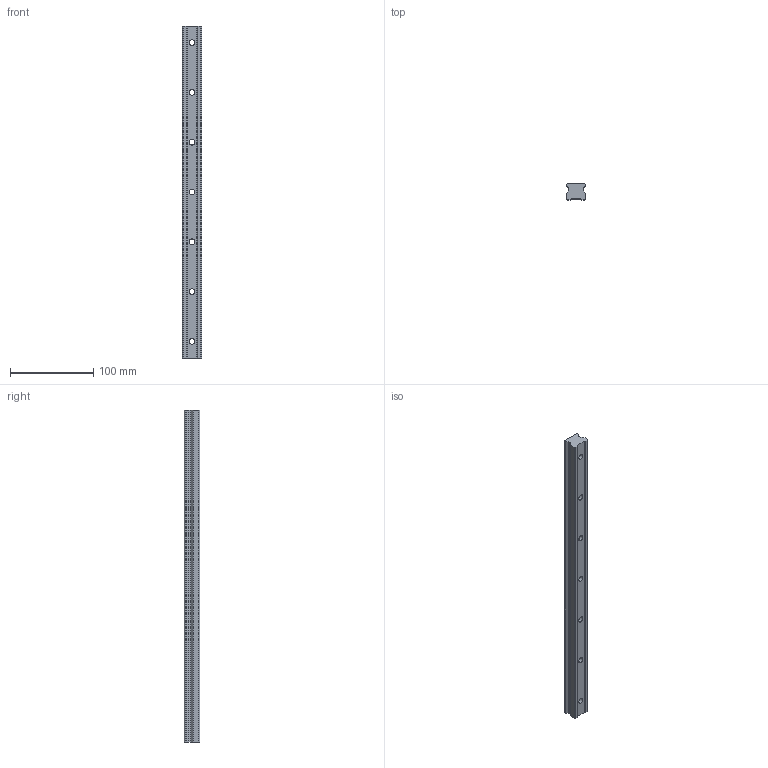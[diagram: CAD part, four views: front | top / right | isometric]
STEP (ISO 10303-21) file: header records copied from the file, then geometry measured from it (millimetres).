
FILE_DESCRIPTION (( 'STEP AP203' ), '1' );
FILE_NAME ('L1016.BL25-0400.step', '2019-06-12T12:04:37', ( '' ), ( '' ), 'SwSTEP 2.0', 'SolidWorks 2017', '' );
FILE_SCHEMA (( 'CONFIG_CONTROL_DESIGN' ));
Length unit declared in the file: millimetre
Products named in the file (1): L1016.BL25-0400
Bounding box: 23 x 19.2 x 400 mm (x, y, z)
Volume: 147059.5 mm3; surface area: 38643 mm2
Topology: 1 solids, 1 shells, 61 faces, 156 edges, 104 vertices
Faces by surface type: cylinder 32, plane 29
Entity records: 1979 total; most frequent: DIRECTION 344, CARTESIAN_POINT 322, ORIENTED_EDGE 312, EDGE_CURVE 156, AXIS2_PLACEMENT_3D 126, VERTEX_POINT 104, LINE 92, VECTOR 92
